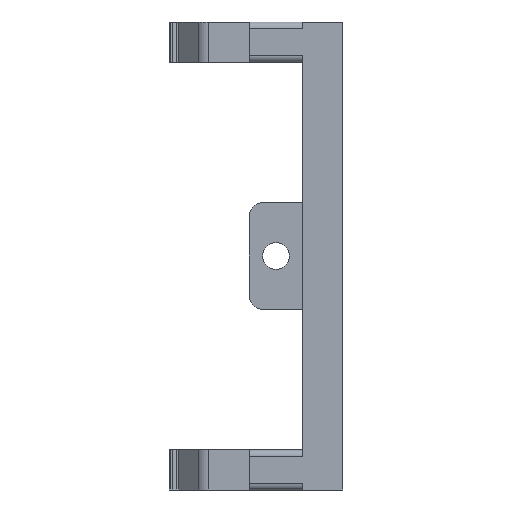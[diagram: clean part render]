
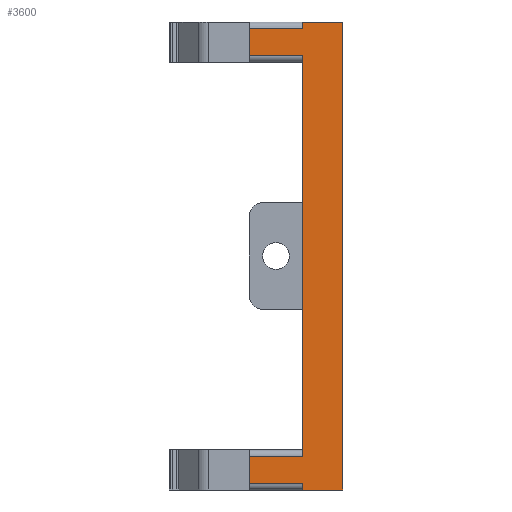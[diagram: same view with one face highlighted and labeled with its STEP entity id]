
A CAD part, left-side view. The second image highlights one B-rep face of the part: STEP entity #3600.
In plain terms, the highlighted planar face has unit normal (-1, 0, 0).
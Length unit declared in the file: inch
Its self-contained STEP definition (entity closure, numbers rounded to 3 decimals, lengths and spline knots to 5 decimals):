
#222=FACE_OUTER_BOUND('',#417,.T.);
#417=EDGE_LOOP('',(#2874,#2875,#2876,#2877,#2878,#2879,#2880,#2881,#2882,
#2883,#2884,#2885));
#642=LINE('',#5411,#1024);
#650=LINE('',#5433,#1032);
#656=LINE('',#5447,#1038);
#675=LINE('',#5510,#1057);
#684=LINE('',#5534,#1066);
#688=LINE('',#5544,#1070);
#756=LINE('',#5709,#1138);
#762=LINE('',#5722,#1144);
#769=LINE('',#5735,#1151);
#771=LINE('',#5738,#1153);
#772=LINE('',#5739,#1154);
#773=LINE('',#5740,#1155);
#1024=VECTOR('',#4401,4.);
#1032=VECTOR('',#4427,4.);
#1038=VECTOR('',#4441,0.5);
#1057=VECTOR('',#4500,4.);
#1066=VECTOR('',#4527,4.);
#1070=VECTOR('',#4539,2.);
#1138=VECTOR('',#4711,30.);
#1144=VECTOR('',#4721,0.5);
#1151=VECTOR('',#4732,35.);
#1153=VECTOR('',#4736,3.);
#1154=VECTOR('',#4737,2.);
#1155=VECTOR('',#4738,3.);
#1473=VERTEX_POINT('',#5356);
#1480=VERTEX_POINT('',#5371);
#1492=VERTEX_POINT('',#5410);
#1497=VERTEX_POINT('',#5431);
#1501=VERTEX_POINT('',#5445);
#1507=VERTEX_POINT('',#5459);
#1514=VERTEX_POINT('',#5474);
#1525=VERTEX_POINT('',#5509);
#1531=VERTEX_POINT('',#5532);
#1583=VERTEX_POINT('',#5721);
#1586=VERTEX_POINT('',#5732);
#1587=VERTEX_POINT('',#5734);
#1869=EDGE_CURVE('',#1492,#1473,#642,.T.);
#1881=EDGE_CURVE('',#1497,#1480,#650,.T.);
#1888=EDGE_CURVE('',#1501,#1497,#656,.T.);
#1918=EDGE_CURVE('',#1525,#1507,#675,.T.);
#1931=EDGE_CURVE('',#1531,#1514,#684,.T.);
#1936=EDGE_CURVE('',#1514,#1507,#688,.T.);
#2020=EDGE_CURVE('',#1492,#1531,#756,.T.);
#2026=EDGE_CURVE('',#1525,#1583,#762,.T.);
#2033=EDGE_CURVE('',#1587,#1586,#769,.T.);
#2035=EDGE_CURVE('',#1586,#1583,#771,.T.);
#2036=EDGE_CURVE('',#1480,#1473,#772,.T.);
#2037=EDGE_CURVE('',#1587,#1501,#773,.T.);
#2874=ORIENTED_EDGE('',*,*,#2035,.T.);
#2875=ORIENTED_EDGE('',*,*,#2026,.F.);
#2876=ORIENTED_EDGE('',*,*,#1918,.T.);
#2877=ORIENTED_EDGE('',*,*,#1936,.F.);
#2878=ORIENTED_EDGE('',*,*,#1931,.F.);
#2879=ORIENTED_EDGE('',*,*,#2020,.F.);
#2880=ORIENTED_EDGE('',*,*,#1869,.T.);
#2881=ORIENTED_EDGE('',*,*,#2036,.F.);
#2882=ORIENTED_EDGE('',*,*,#1881,.F.);
#2883=ORIENTED_EDGE('',*,*,#1888,.F.);
#2884=ORIENTED_EDGE('',*,*,#2037,.F.);
#2885=ORIENTED_EDGE('',*,*,#2033,.T.);
#3222=PLANE('',#3887);
#3600=ADVANCED_FACE('',(#222),#3222,.T.);
#3887=AXIS2_PLACEMENT_3D('',#5737,#4734,#4735);
#4401=DIRECTION('',(0.,1.,0.));
#4427=DIRECTION('',(0.,1.,0.));
#4441=DIRECTION('',(0.,0.,1.));
#4500=DIRECTION('',(0.,1.,0.));
#4527=DIRECTION('',(0.,1.,0.));
#4539=DIRECTION('',(0.,0.,1.));
#4711=DIRECTION('',(0.,0.,1.));
#4721=DIRECTION('',(0.,0.,1.));
#4732=DIRECTION('',(0.,0.,1.));
#4734=DIRECTION('center_axis',(-1.,0.,0.));
#4735=DIRECTION('ref_axis',(0.,0.,1.));
#4736=DIRECTION('',(0.,1.,0.));
#4737=DIRECTION('',(0.,0.,1.));
#4738=DIRECTION('',(0.,1.,0.));
#5356=CARTESIAN_POINT('',(-9.8365,7.47707,-23.2259));
#5371=CARTESIAN_POINT('',(-9.8365,7.47707,-25.2259));
#5410=CARTESIAN_POINT('',(-9.8365,3.47707,-23.2259));
#5411=CARTESIAN_POINT('',(-9.8365,3.47707,-23.2259));
#5431=CARTESIAN_POINT('',(-9.8365,3.47707,-25.2259));
#5433=CARTESIAN_POINT('',(-9.8365,3.47707,-25.2259));
#5445=CARTESIAN_POINT('',(-9.8365,3.47707,-25.7259));
#5447=CARTESIAN_POINT('',(-9.8365,3.47707,-25.7259));
#5459=CARTESIAN_POINT('',(-9.8365,7.47707,8.7741));
#5474=CARTESIAN_POINT('',(-9.8365,7.47707,6.7741));
#5509=CARTESIAN_POINT('',(-9.8365,3.47707,8.7741));
#5510=CARTESIAN_POINT('',(-9.8365,3.47707,8.7741));
#5532=CARTESIAN_POINT('',(-9.8365,3.47707,6.7741));
#5534=CARTESIAN_POINT('',(-9.8365,3.47707,6.7741));
#5544=CARTESIAN_POINT('',(-9.8365,7.47707,8.7741));
#5709=CARTESIAN_POINT('',(-9.8365,3.47707,-25.7259));
#5721=CARTESIAN_POINT('',(-9.8365,3.47707,9.2741));
#5722=CARTESIAN_POINT('',(-9.8365,3.47707,-25.7259));
#5732=CARTESIAN_POINT('',(-9.8365,0.47707,9.2741));
#5734=CARTESIAN_POINT('',(-9.8365,0.47707,-25.7259));
#5735=CARTESIAN_POINT('',(-9.8365,0.47707,-25.7259));
#5737=CARTESIAN_POINT('Origin',(-9.8365,0.47707,-25.7259));
#5738=CARTESIAN_POINT('',(-9.8365,1.22707,9.2741));
#5739=CARTESIAN_POINT('',(-9.8365,7.47707,-23.2259));
#5740=CARTESIAN_POINT('',(-9.8365,1.22707,-25.7259));
